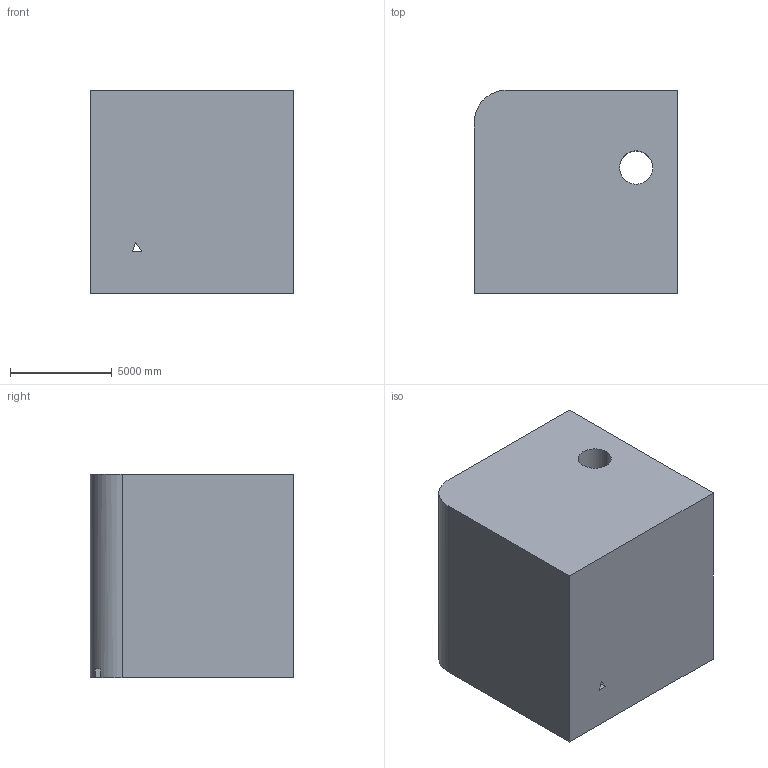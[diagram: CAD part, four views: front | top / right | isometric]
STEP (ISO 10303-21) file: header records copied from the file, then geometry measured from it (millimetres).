
FILE_DESCRIPTION (( 'STEP AP203' ), '1' );
FILE_NAME ('53.STEP', '2022-09-02T13:52:26', ( 'user' ), ( '' ), 'SwSTEP 2.0', 'SolidWorks 2021', '' );
FILE_SCHEMA (( 'CONFIG_CONTROL_DESIGN' ));
Length unit declared in the file: centimetre
Products named in the file (1): 53
Bounding box: 10000 x 10000 x 10000 mm (x, y, z)
Volume: 958371217146.8 mm3; surface area: 648591707.4 mm2
Topology: 1 solids, 1 shells, 20 faces, 54 edges, 36 vertices
Faces by surface type: plane 17, cylinder 3
Entity records: 711 total; most frequent: CARTESIAN_POINT 111, ORIENTED_EDGE 108, DIRECTION 104, EDGE_CURVE 54, LINE 46, VECTOR 46, VERTEX_POINT 36, AXIS2_PLACEMENT_3D 29
